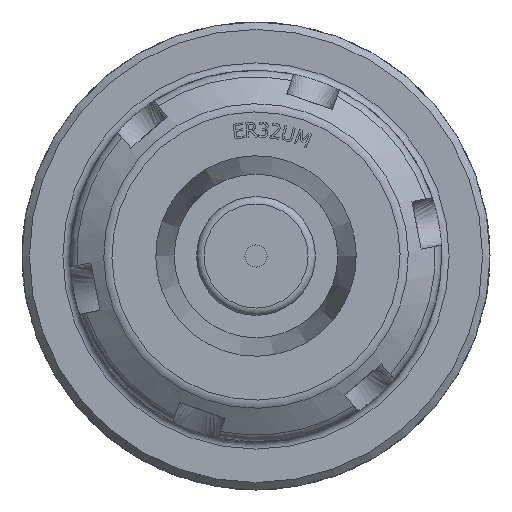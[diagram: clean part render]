
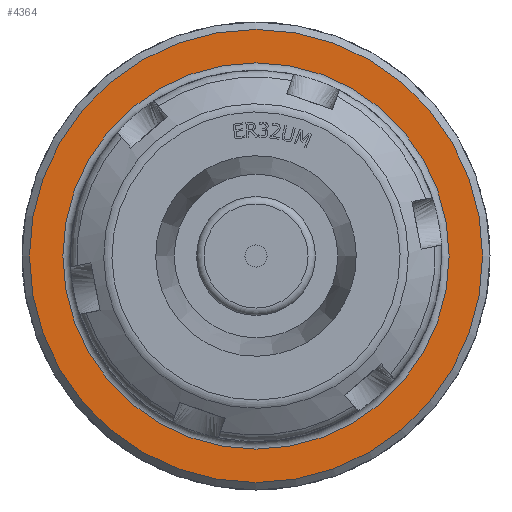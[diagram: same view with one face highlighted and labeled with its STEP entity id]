
A CAD part, front view. The second image highlights one B-rep face of the part: STEP entity #4364.
In plain terms, the highlighted planar face has unit normal (0, -1, 0).
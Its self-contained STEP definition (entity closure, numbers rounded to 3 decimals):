
#1090=FACE_BOUND('',#1477,.T.);
#1113=PLANE('',#4717);
#1239=FACE_OUTER_BOUND('',#1476,.T.);
#1476=EDGE_LOOP('',(#3061));
#1477=EDGE_LOOP('',(#3062,#3063));
#1745=CIRCLE('',#4714,26.);
#1747=CIRCLE('',#4716,26.);
#1748=CIRCLE('',#4718,30.5);
#1905=VERTEX_POINT('',#6117);
#1906=VERTEX_POINT('',#6118);
#1907=VERTEX_POINT('',#6123);
#2367=EDGE_CURVE('',#1905,#1906,#1745,.T.);
#2369=EDGE_CURVE('',#1906,#1905,#1747,.T.);
#2370=EDGE_CURVE('',#1907,#1907,#1748,.T.);
#3061=ORIENTED_EDGE('',*,*,#2370,.F.);
#3062=ORIENTED_EDGE('',*,*,#2367,.F.);
#3063=ORIENTED_EDGE('',*,*,#2369,.F.);
#4364=ADVANCED_FACE('',(#1239,#1090),#1113,.T.);
#4714=AXIS2_PLACEMENT_3D('',#6119,#5102,#5103);
#4716=AXIS2_PLACEMENT_3D('',#6121,#5106,#5107);
#4717=AXIS2_PLACEMENT_3D('',#6122,#5108,#5109);
#4718=AXIS2_PLACEMENT_3D('',#6124,#5110,#5111);
#5102=DIRECTION('center_axis',(0.,-1.,0.));
#5103=DIRECTION('ref_axis',(-1.,0.,0.));
#5106=DIRECTION('center_axis',(0.,-1.,0.));
#5107=DIRECTION('ref_axis',(-1.,0.,0.));
#5108=DIRECTION('center_axis',(0.,-1.,0.));
#5109=DIRECTION('ref_axis',(0.,0.,-1.));
#5110=DIRECTION('center_axis',(0.,1.,0.));
#5111=DIRECTION('ref_axis',(-1.,0.,0.));
#6117=CARTESIAN_POINT('',(26.,31.,0.));
#6118=CARTESIAN_POINT('',(0.,31.,26.));
#6119=CARTESIAN_POINT('Origin',(0.,31.,0.));
#6121=CARTESIAN_POINT('Origin',(0.,31.,0.));
#6122=CARTESIAN_POINT('Origin',(25.,31.,0.));
#6123=CARTESIAN_POINT('',(30.5,31.,0.));
#6124=CARTESIAN_POINT('Origin',(0.,31.,0.));
